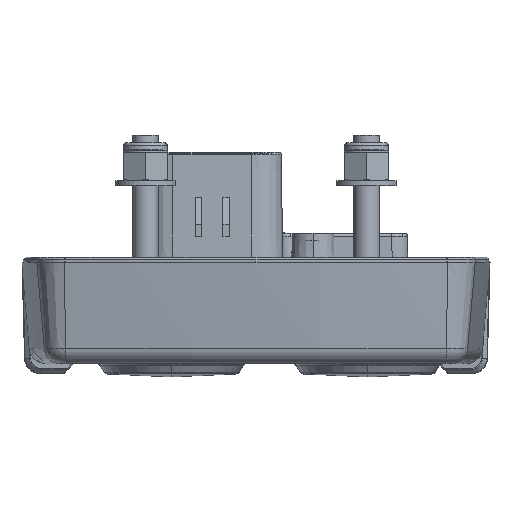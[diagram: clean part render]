
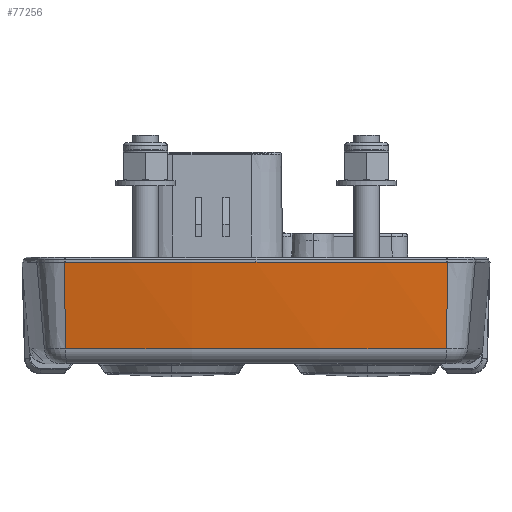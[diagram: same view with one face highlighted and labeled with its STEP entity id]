
A CAD part, left-side view. The second image highlights one B-rep face of the part: STEP entity #77256.
In plain terms, the highlighted conical face has half-angle 5 degrees and reference radius 220.862 mm.
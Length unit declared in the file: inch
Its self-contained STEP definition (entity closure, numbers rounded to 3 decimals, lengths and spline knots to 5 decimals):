
#4993 = AXIS2_PLACEMENT_3D ( 'NONE', #96121, #30252, #107238 ) ;
#5669 = ORIENTED_EDGE ( 'NONE', *, *, #25436, .F. ) ;
#6630 = CIRCLE ( 'NONE', #64387, 8.69534 ) ;
#19527 = CIRCLE ( 'NONE', #4993, 8.69534 ) ;
#20036 = ORIENTED_EDGE ( 'NONE', *, *, #46918, .T. ) ;
#23258 = CARTESIAN_POINT ( 'NONE',  ( -4.26811, 1.19055, 0.32937 ) ) ;
#25436 = EDGE_CURVE ( 'NONE', #75937, #128634, #77360, .T. ) ;
#29116 = VECTOR ( 'NONE', #100674, 39.37008 ) ;
#30252 = DIRECTION ( 'NONE',  ( 0., 0., -1. ) ) ;
#34415 = EDGE_CURVE ( 'NONE', #86170, #128335, #42862, .T. ) ;
#35122 = CARTESIAN_POINT ( 'NONE',  ( -4.26811, 1.19055, 0.32937 ) ) ;
#35239 = CARTESIAN_POINT ( 'NONE',  ( -4.26811, -1.19055, 0.32937 ) ) ;
#41141 = CARTESIAN_POINT ( 'NONE',  ( 4.34534, 0., 0.32937 ) ) ;
#41623 = DIRECTION ( 'NONE',  ( 0., 0., 1. ) ) ;
#42862 = LINE ( 'NONE', #35239, #29116 ) ;
#44788 = ORIENTED_EDGE ( 'NONE', *, *, #106577, .T. ) ;
#46918 = EDGE_CURVE ( 'NONE', #128335, #112680, #6630, .T. ) ;
#51061 = EDGE_CURVE ( 'NONE', #112680, #128634, #19527, .T. ) ;
#53540 = FACE_OUTER_BOUND ( 'NONE', #136302, .T. ) ;
#53924 = CARTESIAN_POINT ( 'NONE',  ( 4.34534, 0., -0.20927 ) ) ;
#55687 = CARTESIAN_POINT ( 'NONE',  ( 4.34534, 0., 0.32937 ) ) ;
#57047 = ORIENTED_EDGE ( 'NONE', *, *, #34415, .T. ) ;
#64387 = AXIS2_PLACEMENT_3D ( 'NONE', #55687, #132761, #66739 ) ;
#64963 = DIRECTION ( 'NONE',  ( -1., 0., 0. ) ) ;
#66739 = DIRECTION ( 'NONE',  ( 1., 0., 0. ) ) ;
#75722 = AXIS2_PLACEMENT_3D ( 'NONE', #53924, #130982, #64963 ) ;
#75860 = CONICAL_SURFACE ( 'NONE', #106271, 8.69534, 0.087 ) ;
#75937 = VERTEX_POINT ( 'NONE', #96435 ) ;
#77256 = ADVANCED_FACE ( 'NONE', ( #53540 ), #75860, .T. ) ;
#77289 = ORIENTED_EDGE ( 'NONE', *, *, #51061, .T. ) ;
#77360 = LINE ( 'NONE', #23258, #132619 ) ;
#78000 = DIRECTION ( 'NONE',  ( -0.086, 0.012, 0.996 ) ) ;
#81061 = CARTESIAN_POINT ( 'NONE',  ( -4.35, 0., 0.32937 ) ) ;
#81808 = CARTESIAN_POINT ( 'NONE',  ( -4.26811, -1.19055, 0.32937 ) ) ;
#85152 = CIRCLE ( 'NONE', #75722, 8.64821 ) ;
#86170 = VERTEX_POINT ( 'NONE', #90640 ) ;
#90640 = CARTESIAN_POINT ( 'NONE',  ( -4.22143, -1.1841, -0.20927 ) ) ;
#96121 = CARTESIAN_POINT ( 'NONE',  ( 4.34534, 0., 0.32937 ) ) ;
#96435 = CARTESIAN_POINT ( 'NONE',  ( -4.22142, 1.18413, -0.20927 ) ) ;
#100674 = DIRECTION ( 'NONE',  ( -0.086, -0.012, 0.996 ) ) ;
#106271 = AXIS2_PLACEMENT_3D ( 'NONE', #41141, #41623, #118654 ) ;
#106577 = EDGE_CURVE ( 'NONE', #75937, #86170, #85152, .T. ) ;
#107238 = DIRECTION ( 'NONE',  ( 1., 0., 0. ) ) ;
#112680 = VERTEX_POINT ( 'NONE', #81061 ) ;
#118654 = DIRECTION ( 'NONE',  ( 1., 0., 0. ) ) ;
#128335 = VERTEX_POINT ( 'NONE', #81808 ) ;
#128634 = VERTEX_POINT ( 'NONE', #35122 ) ;
#130982 = DIRECTION ( 'NONE',  ( 0., 0., 1. ) ) ;
#132619 = VECTOR ( 'NONE', #78000, 39.37008 ) ;
#132761 = DIRECTION ( 'NONE',  ( 0., 0., -1. ) ) ;
#136302 = EDGE_LOOP ( 'NONE', ( #5669, #44788, #57047, #20036, #77289 ) ) ;
